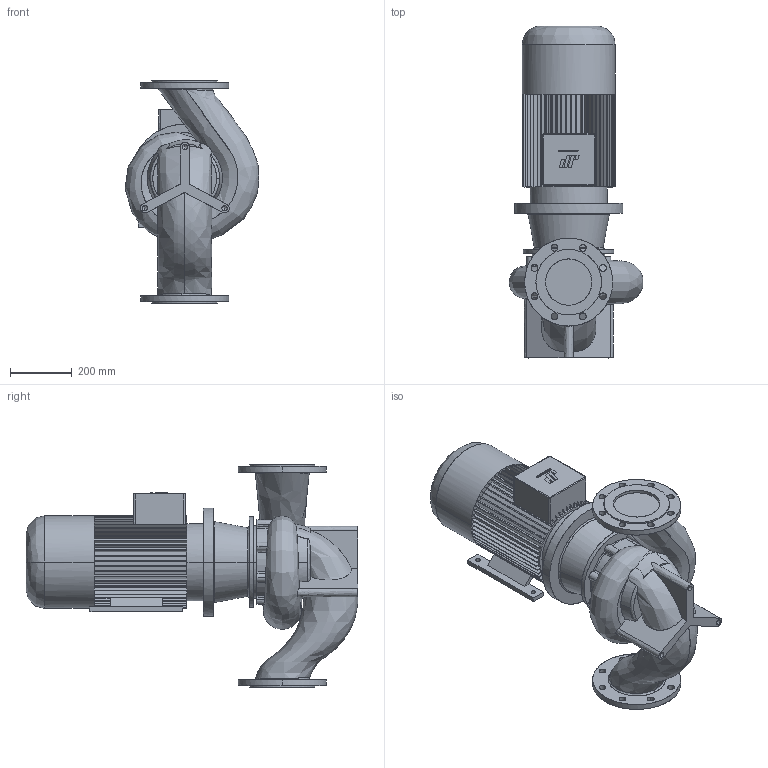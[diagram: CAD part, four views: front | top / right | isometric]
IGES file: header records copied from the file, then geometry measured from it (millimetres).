
Start section: CombiLine
Global section: file name: CLB_150-200_IEC160L_ND10.igs; native system:  By UGS Corp.; preprocessor: XPlus GENERIC/IGES 3.0; author: Stageplaats; organization: Johnson Pump Water B.V.; date: 20070717.143423; units: millimetre
Bounding box: 433.37 x 1074.5 x 720 mm (x, y, z)
Surface area: 2454878 mm2 (no closed solid volume)
Topology: 0 solids, 0 shells, 598 faces, 3629 edges, 3623 vertices
Faces by surface type: bspline 598
